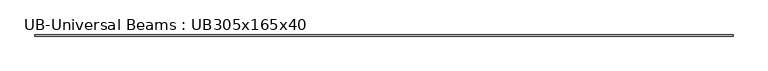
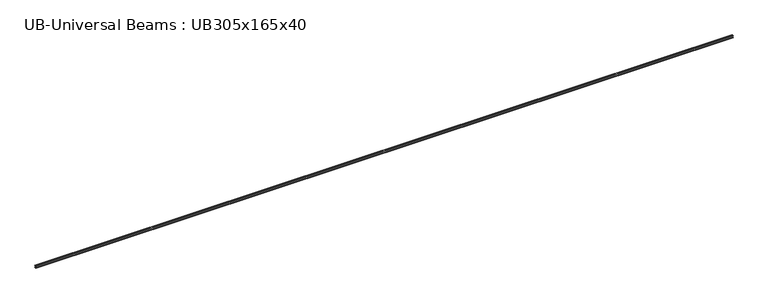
"""IFC4 building model written with IfcOpenShell, lengths in millimetres: beam geometry, UB-Universal Beams : UB305x165x40."""

from ifc_helpers import new_model, si_unit, point, frame, frame_2d, origin, place, context, project, spatial, polyline, circle_curve, trimmed, segment, composite_curve, outline, extrude, source, transform, mapped, element, save


def ub_universal_beams_ub305x165x40_84cf911b(model_context):
    return source(origin(), model_context, "Body", "SweptSolid", [
        extrude(outline(composite_curve([segment(polyline([(82.5, -141.5), (82.5, -151.7), (-82.5, -151.7), (-82.5, -141.5), (-11.9, -141.5)]), True, "CONTINUOUS"), segment(trimmed(circle_curve(frame_2d((-11.9, -132.6)), 8.9), [point((-11.9, -141.5))], [point((-3.0, -132.6))], True, "CARTESIAN"), True, "CONTINUOUS"), segment(polyline([(-3.0, -132.6), (-3.0, 132.6)]), True, "CONTINUOUS"), segment(trimmed(circle_curve(frame_2d((-11.9, 132.6)), 8.9), [point((-3.0, 132.6))], [point((-11.9, 141.5))], True, "CARTESIAN"), True, "CONTINUOUS"), segment(polyline([(-11.9, 141.5), (-82.5, 141.5), (-82.5, 151.7), (82.5, 151.7), (82.5, 141.5), (11.9, 141.5)]), True, "CONTINUOUS"), segment(trimmed(circle_curve(frame_2d((11.9, 132.6)), 8.9), [point((11.9, 141.5))], [point((3.0, 132.6))], True, "CARTESIAN"), True, "CONTINUOUS"), segment(polyline([(3.0, 132.6), (3.0, -132.6)]), True, "CONTINUOUS"), segment(trimmed(circle_curve(frame_2d((11.9, -132.6)), 8.9), [point((3.0, -132.6))], [point((11.9, -141.5))], True, "CARTESIAN"), True, "CONTINUOUS"), segment(polyline([(11.9, -141.5), (82.5, -141.5)]), True, "CONTINUOUS")], self_intersect=False)), frame((-49834.6, 0.0, 0.0), z_axis=(1.0, 0.0, 0.0), x_axis=(0.0, 1.0, 0.0)), (0.0, 0.0, 1.0), 99669.2),
    ])


if __name__ == "__main__":
    model = new_model("IFC4")
    model_context = context("Model", 3, world=origin())
    ifc_project = project(units=[si_unit("LENGTHUNIT", "METRE", prefix="MILLI")], contexts=[model_context])
    site = spatial("IfcSite", under=ifc_project)
    building = spatial("IfcBuilding", under=site)
    placement = place(None, origin())
    ub_universal_beams_ub305x165x40_shape = ub_universal_beams_ub305x165x40_84cf911b(model_context)
    element("IfcBeam", 1, ObjectType="UB-Universal Beams : UB305x165x40", at=placement, inside=building, context=model_context, shape_type="MappedRepresentation", body=[
        mapped(ub_universal_beams_ub305x165x40_shape, transform((0.0, 0.0, 0.0), x_axis=(1.0, 0.0, 0.0), y_axis=(0.0, 1.0, 0.0), z_axis=(0.0, 0.0, 1.0))),
    ])
    save(model, "model.ifc")
